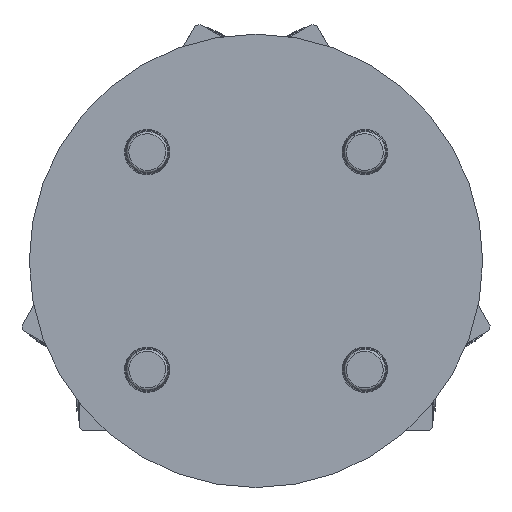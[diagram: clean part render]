
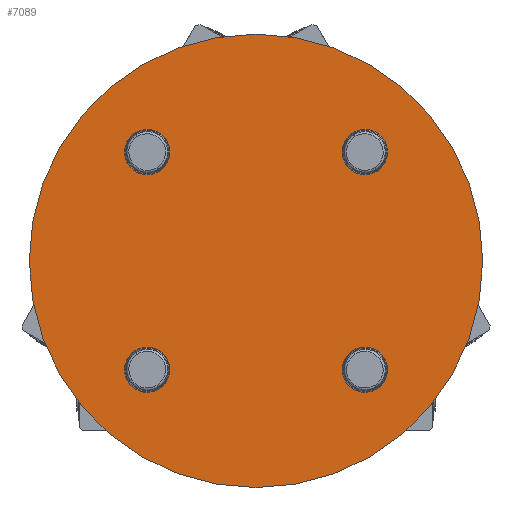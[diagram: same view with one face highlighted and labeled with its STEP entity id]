
A CAD part, front view. The second image highlights one B-rep face of the part: STEP entity #7089.
In plain terms, the highlighted planar face has unit normal (0, -1, 0).
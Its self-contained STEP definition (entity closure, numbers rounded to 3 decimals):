
#8 = EDGE_LOOP ( 'NONE', ( #12252, #4671 ) ) ;
#142 = AXIS2_PLACEMENT_3D ( 'NONE', #719, #2091, #3592 ) ;
#514 = VERTEX_POINT ( 'NONE', #12767 ) ;
#534 = DIRECTION ( 'NONE',  ( 0., 0., -1. ) ) ;
#645 = AXIS2_PLACEMENT_3D ( 'NONE', #6929, #12738, #11912 ) ;
#719 = CARTESIAN_POINT ( 'NONE',  ( 0., -22., 0. ) ) ;
#772 = AXIS2_PLACEMENT_3D ( 'NONE', #12305, #3826, #13770 ) ;
#804 = AXIS2_PLACEMENT_3D ( 'NONE', #8119, #12454, #16695 ) ;
#937 = ORIENTED_EDGE ( 'NONE', *, *, #9641, .F. ) ;
#951 = EDGE_LOOP ( 'NONE', ( #937, #10961 ) ) ;
#1415 = ORIENTED_EDGE ( 'NONE', *, *, #17612, .T. ) ;
#1759 = CIRCLE ( 'NONE', #645, 8.007 ) ;
#1863 = CARTESIAN_POINT ( 'NONE',  ( -48., -22., 39.993 ) ) ;
#1886 = CIRCLE ( 'NONE', #804, 8.007 ) ;
#2074 = CIRCLE ( 'NONE', #8013, 8.007 ) ;
#2091 = DIRECTION ( 'NONE',  ( 0., -1., 0. ) ) ;
#2129 = FACE_OUTER_BOUND ( 'NONE', #9297, .T. ) ;
#2240 = VERTEX_POINT ( 'NONE', #12445 ) ;
#2477 = AXIS2_PLACEMENT_3D ( 'NONE', #3970, #8226, #15373 ) ;
#2642 = CARTESIAN_POINT ( 'NONE',  ( -48., -22., 48. ) ) ;
#2763 = AXIS2_PLACEMENT_3D ( 'NONE', #14633, #3167, #9018 ) ;
#3167 = DIRECTION ( 'NONE',  ( 0., -1., 0. ) ) ;
#3180 = VERTEX_POINT ( 'NONE', #11120 ) ;
#3384 = ORIENTED_EDGE ( 'NONE', *, *, #16455, .F. ) ;
#3454 = DIRECTION ( 'NONE',  ( 0., -1., 0. ) ) ;
#3592 = DIRECTION ( 'NONE',  ( 0., 0., -1. ) ) ;
#3826 = DIRECTION ( 'NONE',  ( 0., -1., 0. ) ) ;
#3854 = EDGE_CURVE ( 'NONE', #11911, #514, #15210, .T. ) ;
#3970 = CARTESIAN_POINT ( 'NONE',  ( 48., -22., -48. ) ) ;
#4092 = ORIENTED_EDGE ( 'NONE', *, *, #3854, .F. ) ;
#4167 = DIRECTION ( 'NONE',  ( 0., -1., 0. ) ) ;
#4671 = ORIENTED_EDGE ( 'NONE', *, *, #12732, .F. ) ;
#4905 = EDGE_CURVE ( 'NONE', #13916, #18185, #1759, .T. ) ;
#5224 = EDGE_CURVE ( 'NONE', #17245, #13571, #2074, .T. ) ;
#5469 = DIRECTION ( 'NONE',  ( 0., -1., 0. ) ) ;
#5484 = DIRECTION ( 'NONE',  ( 0., 0., 1. ) ) ;
#5708 = DIRECTION ( 'NONE',  ( 0., 0., -1. ) ) ;
#5941 = FACE_BOUND ( 'NONE', #12798, .T. ) ;
#6365 = CIRCLE ( 'NONE', #12663, 8.007 ) ;
#6871 = AXIS2_PLACEMENT_3D ( 'NONE', #9008, #13345, #534 ) ;
#6929 = CARTESIAN_POINT ( 'NONE',  ( 48., -22., 48. ) ) ;
#7089 = ADVANCED_FACE ( 'NONE', ( #13250, #12338, #11888, #5941, #2129 ), #17876, .T. ) ;
#7342 = ORIENTED_EDGE ( 'NONE', *, *, #8396, .T. ) ;
#8013 = AXIS2_PLACEMENT_3D ( 'NONE', #11807, #3454, #13391 ) ;
#8119 = CARTESIAN_POINT ( 'NONE',  ( -48., -22., -48. ) ) ;
#8226 = DIRECTION ( 'NONE',  ( 0., -1., 0. ) ) ;
#8396 = EDGE_CURVE ( 'NONE', #2240, #3180, #8746, .T. ) ;
#8548 = EDGE_LOOP ( 'NONE', ( #9397, #18105 ) ) ;
#8746 = CIRCLE ( 'NONE', #2763, 100. ) ;
#9008 = CARTESIAN_POINT ( 'NONE',  ( 0., -22., 0. ) ) ;
#9018 = DIRECTION ( 'NONE',  ( 0., 0., -1. ) ) ;
#9297 = EDGE_LOOP ( 'NONE', ( #1415, #7342 ) ) ;
#9397 = ORIENTED_EDGE ( 'NONE', *, *, #4905, .F. ) ;
#9641 = EDGE_CURVE ( 'NONE', #12402, #10756, #6365, .T. ) ;
#9694 = CARTESIAN_POINT ( 'NONE',  ( 48., -22., -56.007 ) ) ;
#9925 = DIRECTION ( 'NONE',  ( 0., -1., 0. ) ) ;
#10351 = CARTESIAN_POINT ( 'NONE',  ( 48., -22., 39.993 ) ) ;
#10756 = VERTEX_POINT ( 'NONE', #14948 ) ;
#10961 = ORIENTED_EDGE ( 'NONE', *, *, #11406, .F. ) ;
#11120 = CARTESIAN_POINT ( 'NONE',  ( 0., -22., 100. ) ) ;
#11406 = EDGE_CURVE ( 'NONE', #10756, #12402, #1886, .T. ) ;
#11418 = CIRCLE ( 'NONE', #2477, 8.007 ) ;
#11807 = CARTESIAN_POINT ( 'NONE',  ( 48., -22., -48. ) ) ;
#11888 = FACE_BOUND ( 'NONE', #8548, .T. ) ;
#11911 = VERTEX_POINT ( 'NONE', #1863 ) ;
#11912 = DIRECTION ( 'NONE',  ( 0., 0., 1. ) ) ;
#12252 = ORIENTED_EDGE ( 'NONE', *, *, #5224, .F. ) ;
#12305 = CARTESIAN_POINT ( 'NONE',  ( -48., -22., 48. ) ) ;
#12338 = FACE_BOUND ( 'NONE', #8, .T. ) ;
#12402 = VERTEX_POINT ( 'NONE', #17379 ) ;
#12445 = CARTESIAN_POINT ( 'NONE',  ( 0., -22., -100. ) ) ;
#12454 = DIRECTION ( 'NONE',  ( 0., -1., 0. ) ) ;
#12663 = AXIS2_PLACEMENT_3D ( 'NONE', #16893, #4167, #5484 ) ;
#12732 = EDGE_CURVE ( 'NONE', #13571, #17245, #11418, .T. ) ;
#12738 = DIRECTION ( 'NONE',  ( 0., -1., 0. ) ) ;
#12767 = CARTESIAN_POINT ( 'NONE',  ( -48., -22., 56.007 ) ) ;
#12798 = EDGE_LOOP ( 'NONE', ( #4092, #3384 ) ) ;
#12813 = EDGE_CURVE ( 'NONE', #18185, #13916, #13443, .T. ) ;
#13126 = CARTESIAN_POINT ( 'NONE',  ( 48., -22., 56.007 ) ) ;
#13250 = FACE_BOUND ( 'NONE', #951, .T. ) ;
#13345 = DIRECTION ( 'NONE',  ( 0., -1., 0. ) ) ;
#13391 = DIRECTION ( 'NONE',  ( 0., 0., -1. ) ) ;
#13443 = CIRCLE ( 'NONE', #17797, 8.007 ) ;
#13571 = VERTEX_POINT ( 'NONE', #16760 ) ;
#13770 = DIRECTION ( 'NONE',  ( 0., 0., -1. ) ) ;
#13916 = VERTEX_POINT ( 'NONE', #10351 ) ;
#14633 = CARTESIAN_POINT ( 'NONE',  ( 0., -22., 0. ) ) ;
#14948 = CARTESIAN_POINT ( 'NONE',  ( -48., -22., -39.993 ) ) ;
#15210 = CIRCLE ( 'NONE', #17799, 8.007 ) ;
#15373 = DIRECTION ( 'NONE',  ( 0., 0., -1. ) ) ;
#16455 = EDGE_CURVE ( 'NONE', #514, #11911, #16837, .T. ) ;
#16695 = DIRECTION ( 'NONE',  ( 0., 0., 1. ) ) ;
#16760 = CARTESIAN_POINT ( 'NONE',  ( 48., -22., -39.993 ) ) ;
#16837 = CIRCLE ( 'NONE', #772, 8.007 ) ;
#16872 = CARTESIAN_POINT ( 'NONE',  ( 48., -22., 48. ) ) ;
#16893 = CARTESIAN_POINT ( 'NONE',  ( -48., -22., -48. ) ) ;
#16986 = DIRECTION ( 'NONE',  ( 0., 0., 1. ) ) ;
#17245 = VERTEX_POINT ( 'NONE', #9694 ) ;
#17379 = CARTESIAN_POINT ( 'NONE',  ( -48., -22., -56.007 ) ) ;
#17612 = EDGE_CURVE ( 'NONE', #3180, #2240, #17651, .T. ) ;
#17651 = CIRCLE ( 'NONE', #6871, 100. ) ;
#17797 = AXIS2_PLACEMENT_3D ( 'NONE', #16872, #5469, #16986 ) ;
#17799 = AXIS2_PLACEMENT_3D ( 'NONE', #2642, #9925, #5708 ) ;
#17876 = PLANE ( 'NONE',  #142 ) ;
#18105 = ORIENTED_EDGE ( 'NONE', *, *, #12813, .F. ) ;
#18185 = VERTEX_POINT ( 'NONE', #13126 ) ;
